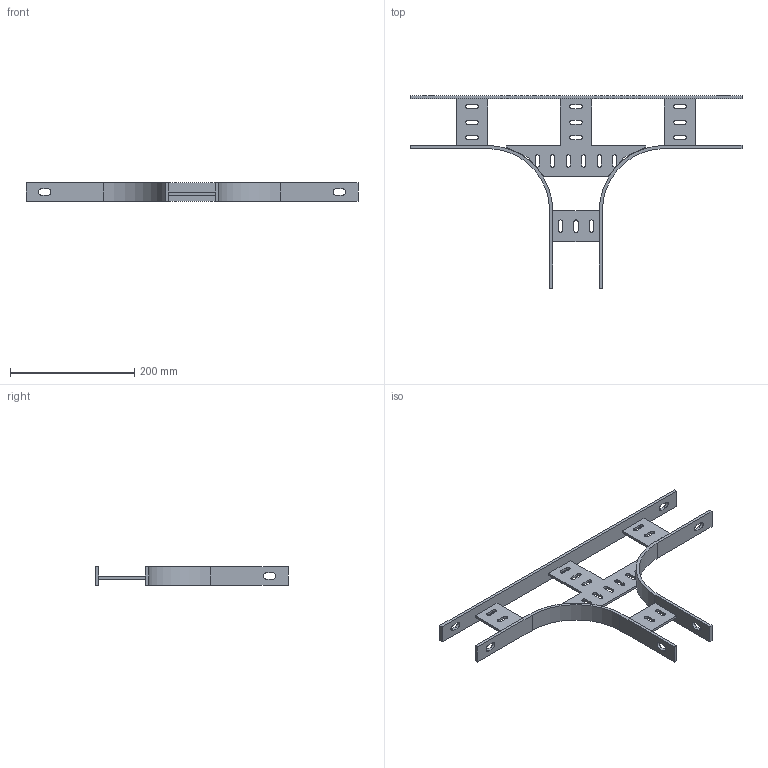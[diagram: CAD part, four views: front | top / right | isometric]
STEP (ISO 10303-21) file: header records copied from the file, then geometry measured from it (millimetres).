
FILE_DESCRIPTION(('Creo Elements/Direct Modeling STEP Export'),'2;1');
FILE_NAME('//pserver/office/EK/ME10-3D/3D-output/SLA 075F.stp','2020-03-10T15:10:59',(''),(''),'PTC Creo Elements/Direct Modeling STEP processor for AP214 (Solid Model)','PTC Creo Elements/Direct Modeling 19.0C 15-Aug-2015 (C) Parametric Technology GmbH','');
FILE_SCHEMA(('AUTOMOTIVE_DESIGN { 1 0 10303 214 1 1 1 1 }'));
Length unit declared in the file: millimetre
Products named in the file (1): SLA_075F
Bounding box: 535 x 310 x 30 mm (x, y, z)
Volume: 279311.1 mm3; surface area: 142135.9 mm2
Topology: 1 solids, 1 shells, 155 faces, 448 edges, 296 vertices
Faces by surface type: plane 99, cylinder 56
Entity records: 5093 total; most frequent: ORIENTED_EDGE 896, CARTESIAN_POINT 875, DIRECTION 836, EDGE_CURVE 448, VECTOR 322, LINE 322, VERTEX_POINT 296, AXIS2_PLACEMENT_3D 257
